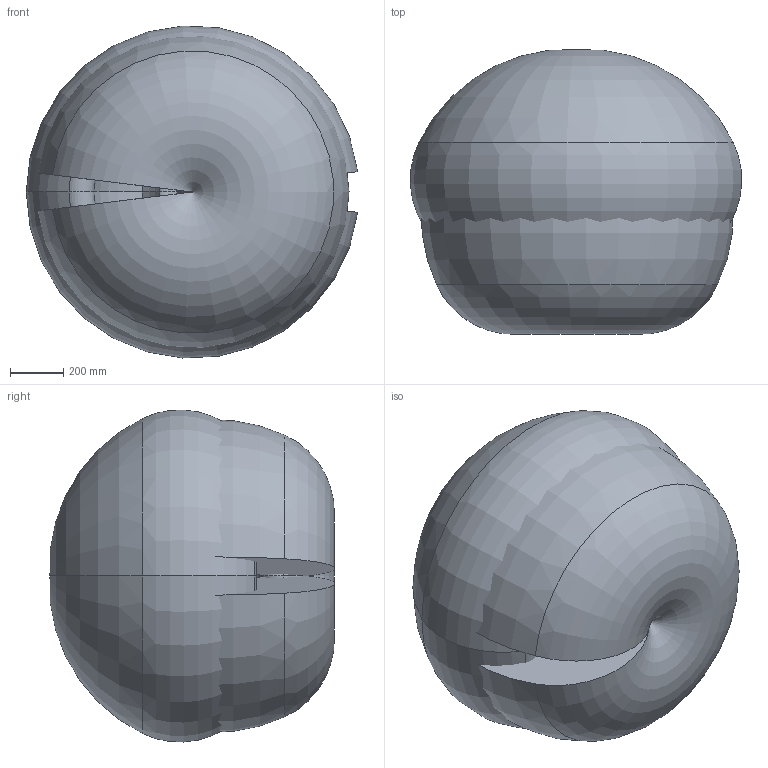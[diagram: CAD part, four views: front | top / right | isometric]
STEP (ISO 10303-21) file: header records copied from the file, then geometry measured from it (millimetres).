
FILE_DESCRIPTION (( 'STEP AP214' ), '1' );
FILE_NAME ('Arbeitsraum_H600_2021_10.STEP', '2021-10-19T10:21:33', ( '' ), ( '' ), 'SwSTEP 2.0', 'SolidWorks 2017', '' );
FILE_SCHEMA (( 'AUTOMOTIVE_DESIGN' ));
Length unit declared in the file: millimetre
Products named in the file (1): Arbeitsraum_H600_2021_10
Bounding box: 1244.13 x 1069.05 x 1246.45 mm (x, y, z)
Volume: 1272233340.8 mm3; surface area: 10519480.7 mm2
Topology: 3 solids, 3 shells, 32 faces, 77 edges, 39 vertices
Faces by surface type: torus 26, plane 6
Entity records: 918 total; most frequent: DIRECTION 192, CARTESIAN_POINT 137, ORIENTED_EDGE 130, AXIS2_PLACEMENT_3D 94, EDGE_CURVE 65, CIRCLE 61, VERTEX_POINT 39, ADVANCED_FACE 32
